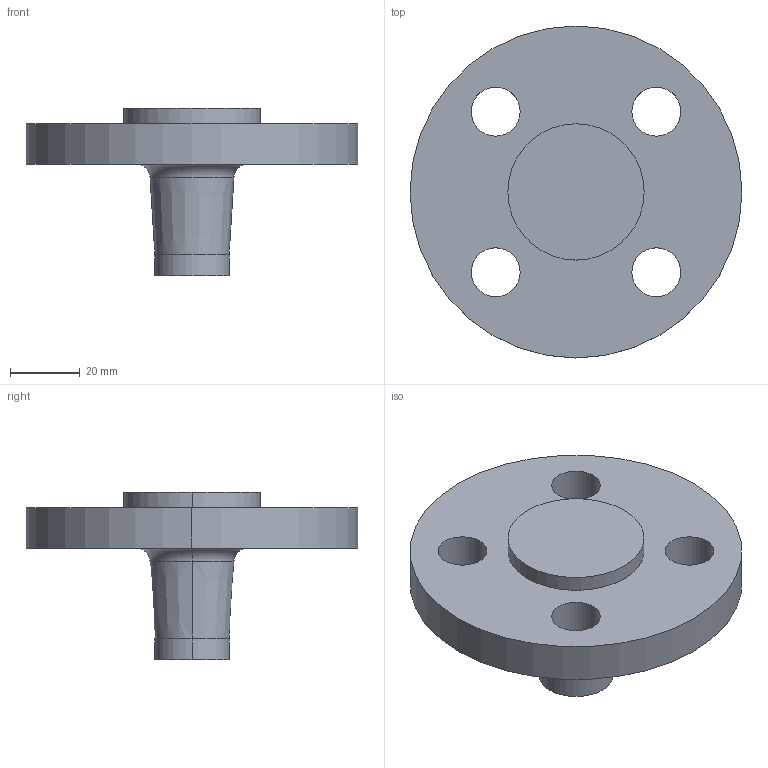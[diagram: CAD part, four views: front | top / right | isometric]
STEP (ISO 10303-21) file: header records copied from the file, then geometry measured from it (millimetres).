
FILE_DESCRIPTION (( 'STEP AP214' ), '1' );
FILE_NAME ('PN40 DN15 Type 21(ii) - Type E Face.STEP', '2018-12-29T14:24:17', ( '' ), ( '' ), 'SwSTEP 2.0', 'SolidWorks 2019', '' );
FILE_SCHEMA (( 'AUTOMOTIVE_DESIGN' ));
Length unit declared in the file: millimetre
Products named in the file (1): PN40 DN15 Type 21(ii) - Type E Face
Bounding box: 95 x 95 x 48 mm (x, y, z)
Volume: 92897.8 mm3; surface area: 21003.7 mm2
Topology: 1 solids, 1 shells, 24 faces, 54 edges, 34 vertices
Faces by surface type: cylinder 14, torus 4, plane 4, cone 2
Entity records: 738 total; most frequent: DIRECTION 142, CARTESIAN_POINT 113, ORIENTED_EDGE 108, AXIS2_PLACEMENT_3D 63, EDGE_CURVE 54, CIRCLE 38, EDGE_LOOP 34, VERTEX_POINT 34
